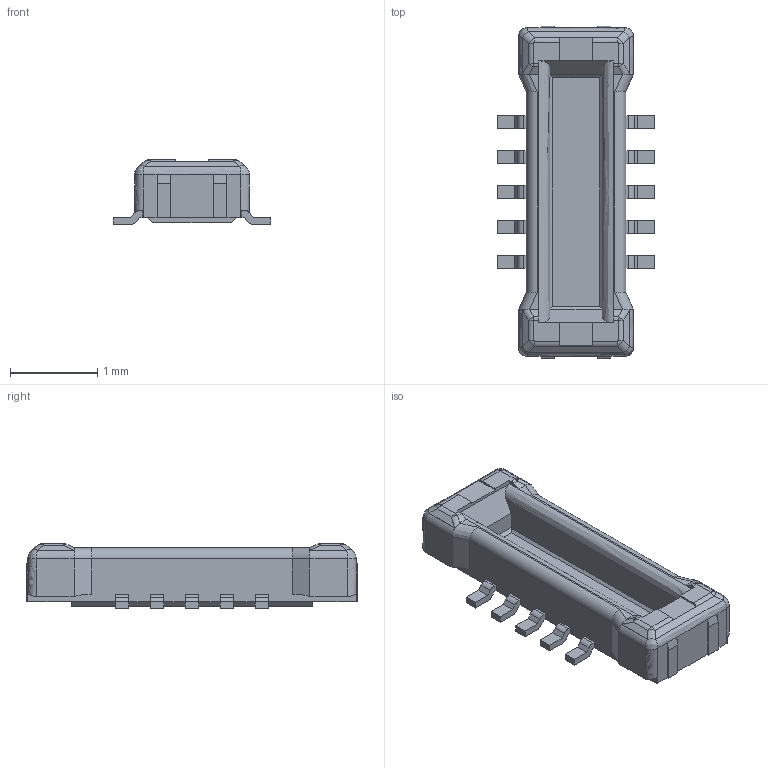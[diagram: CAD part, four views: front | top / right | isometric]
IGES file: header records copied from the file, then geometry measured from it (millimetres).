
Start section: SolidWorks IGES file using analytic representation for surfaces
Bounding box: 1.8 x 3.8 x 0.74 mm (x, y, z)
Surface area: 19.8 mm2 (no closed solid volume)
Topology: 0 solids, 0 shells, 235 faces, 1370 edges, 1355 vertices
Faces by surface type: bspline 175, revolution 60
